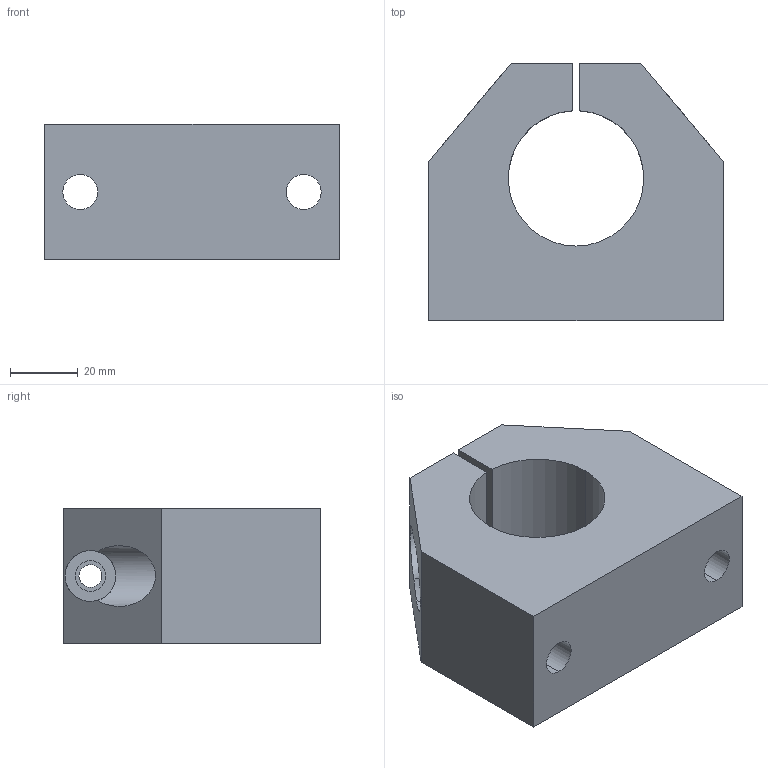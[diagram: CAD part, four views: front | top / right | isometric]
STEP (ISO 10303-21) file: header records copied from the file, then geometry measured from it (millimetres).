
FILE_DESCRIPTION (( 'STEP AP214' ), '1' );
FILE_NAME ('KWBC58-40.step', '2020-03-04T13:12:11', ( '' ), ( '' ), 'SwSTEP 2.0', 'SolidWorks 2019', '' );
FILE_SCHEMA (( 'AUTOMOTIVE_DESIGN' ));
Length unit declared in the file: millimetre
Products named in the file (1): KWBC58-40
Bounding box: 87 x 76 x 40 mm (x, y, z)
Volume: 163692.5 mm3; surface area: 32433.5 mm2
Topology: 1 solids, 1 shells, 31 faces, 84 edges, 56 vertices
Faces by surface type: cylinder 17, plane 14
Entity records: 1183 total; most frequent: CARTESIAN_POINT 292, ORIENTED_EDGE 168, DIRECTION 160, EDGE_CURVE 84, AXIS2_PLACEMENT_3D 58, VERTEX_POINT 56, LINE 44, VECTOR 44
